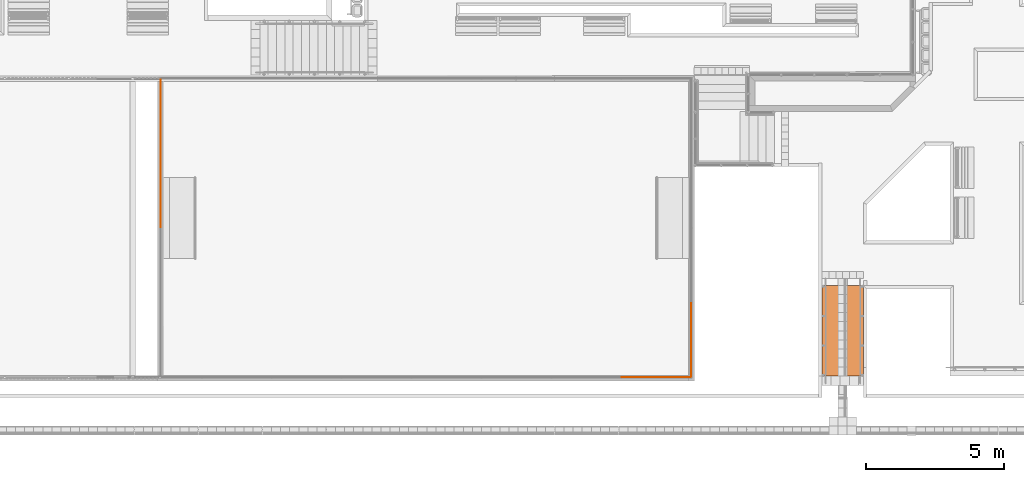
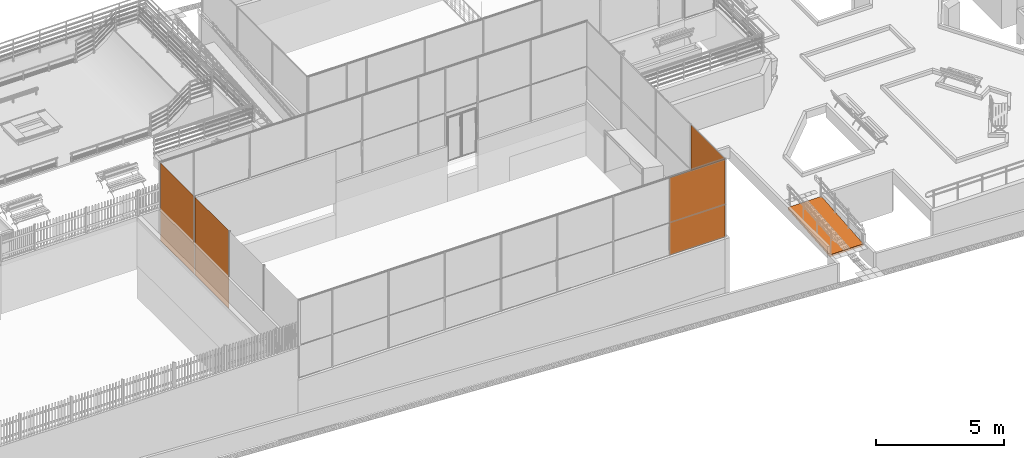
# One storey, part 211 of 237: 5 proxies.
"""IFC2X3 building model written with IfcOpenShell, lengths in millimetres."""

from ifc_helpers import new_model, entity, si_unit, converted_unit, derived_unit, money_unit, direction, frame, origin_with_axes, place, context, subcontext, project, spatial, open_shell, faceted_brep, surface_model, material, type_object, element, save


model = new_model("IFC2X3")

# Units and contexts
model_context = context("Model", 3, precision=0.01, world=origin_with_axes(), true_north=direction((0.0, 1.0)))
body_context = subcontext(model_context, "Body", "Model", "MODEL_VIEW")
ifc_project = project(units=[si_unit("LENGTHUNIT", "METRE", prefix="MILLI"), si_unit("AREAUNIT", "SQUARE_METRE"), si_unit("VOLUMEUNIT", "CUBIC_METRE"), converted_unit("PLANEANGLEUNIT", "DEGREE", entity("IfcPlaneAngleMeasure", 0.0174532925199), si_unit("PLANEANGLEUNIT", "RADIAN"), dimensions=[0, 0, 0, 0, 0, 0, 0]), money_unit("USD"), converted_unit("TIMEUNIT", "Year", entity("IfcTimeMeasure", 31556926.0), si_unit("TIMEUNIT", "SECOND"), dimensions=[0, 0, 1, 0, 0, 0, 0]), si_unit("MASSUNIT", "GRAM", prefix="KILO"), si_unit("THERMODYNAMICTEMPERATUREUNIT", "DEGREE_CELSIUS"), si_unit("LUMINOUSINTENSITYUNIT", "LUMEN"), si_unit("ENERGYUNIT", "JOULE", prefix="MEGA"), derived_unit("THERMALCONDUCTANCEUNIT", [(si_unit("POWERUNIT", "WATT"), 1), (si_unit("LENGTHUNIT", "METRE"), -1), (si_unit("THERMODYNAMICTEMPERATUREUNIT", "KELVIN"), -1)]), derived_unit("SPECIFICHEATCAPACITYUNIT", [(si_unit("ENERGYUNIT", "JOULE"), 1), (si_unit("MASSUNIT", "GRAM", prefix="KILO"), -1), (si_unit("THERMODYNAMICTEMPERATUREUNIT", "KELVIN"), -1)]), derived_unit("MASSDENSITYUNIT", [(si_unit("MASSUNIT", "GRAM", prefix="KILO"), 1), (si_unit("VOLUMEUNIT", "CUBIC_METRE"), -1)])], contexts=[model_context])

# Site, building, storey
site_placement = place(None, origin_with_axes())
site = spatial("IfcSite", under=ifc_project, at=site_placement, Name="Local", CompositionType="ELEMENT")
building_placement = place(site_placement, origin_with_axes())
building = spatial("IfcBuilding", under=site, at=building_placement, Name="Construção", CompositionType="ELEMENT")
storey_placement = place(building_placement, origin_with_axes())
storey = spatial("IfcBuildingStorey", under=building, at=storey_placement, Name="Pavimento Térreo", CompositionType="ELEMENT", Elevation=0.0)

# Proxies
building_element_proxy_type_1 = type_object("IfcBuildingElementProxyType", Name="Tela metalica1", PredefinedType="NOTDEFINED")
proxy_1_placement = place(storey_placement, frame((76272.1216043, 12206.6960524, -2726.37402835), z_axis=(0.0, 0.0, 1.0), x_axis=(0.974874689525, 0.222753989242, 0.0)))
element("IfcBuildingElementProxy", 1, at=proxy_1_placement, inside=storey, type_object=building_element_proxy_type_1, Name="Objeto-0044", context=body_context, shape_type="SurfaceModel", body=[
    surface_model("IfcShellBasedSurfaceModel", [(2420.289592, 0.0, 3702.79626524), (0.0, 555.966480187, 3702.79626524), (0.0, 555.966480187, 0.0), (2420.289592, 0.0, 0.0)], [open_shell([[[0, 1, 2, 3]]])]),
])
proxy_2_placement = place(storey_placement, frame((60049.2772981, 18305.0544461, -2721.89460916), z_axis=(0.0, 0.0, 1.0), x_axis=(-0.223510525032, 0.974701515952, 0.0)))
element("IfcBuildingElementProxy", 2, at=proxy_2_placement, inside=storey, type_object=building_element_proxy_type_1, Name="Objeto-0044", context=body_context, shape_type="SurfaceModel", body=[
    surface_model("IfcShellBasedSurfaceModel", [(2596.73432314, 0.0, 3698.31684606), (0.0, 594.295187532, 3698.31684606), (0.0, 594.295187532, 0.0), (2596.73432314, 0.0, 0.0)], [open_shell([[[0, 1, 2, 3]]])]),
])
proxy_3_placement = place(storey_placement, frame((60044.7548177, 21007.1536414, -2721.89460916), z_axis=(0.0, 0.0, 1.0), x_axis=(-0.223510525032, 0.974701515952, 0.0)))
element("IfcBuildingElementProxy", 3, at=proxy_3_placement, inside=storey, type_object=building_element_proxy_type_1, Name="Objeto-0044", context=body_context, shape_type="SurfaceModel", body=[
    surface_model("IfcShellBasedSurfaceModel", [(2576.50046435, 0.0, 3698.31684606), (0.0, 590.821869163, 3698.31684606), (0.0, 590.821869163, 0.0), (2576.50046435, 0.0, 0.0)], [open_shell([[[0, 1, 2, 3]]])]),
])
proxy_4_placement = place(storey_placement, frame((79241.7847382, 12906.1600674, -2721.89460916), z_axis=(0.0, 0.0, 1.0), x_axis=(-0.223510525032, 0.974701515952, 0.0)))
element("IfcBuildingElementProxy", 4, at=proxy_4_placement, inside=storey, type_object=building_element_proxy_type_1, Name="Objeto-0044", context=body_context, shape_type="SurfaceModel", body=[
    surface_model("IfcShellBasedSurfaceModel", [(2587.00912398, 0.0, 3698.31684606), (0.0, 600.37258562, 3698.31684606), (0.0, 600.37258562, 0.0), (2587.00912398, 0.0, 0.0)], [open_shell([[[0, 1, 2, 3]]])]),
])
ifc_material = material(Name="Concreto - Estrutural")
building_element_proxy_type_2 = type_object("IfcBuildingElementProxyType", Name="Rampa Direta 25", PredefinedType="NOTDEFINED")
proxy_5_placement = place(storey_placement, frame((84136.3506861, 12791.8113745, -5267.74663192), z_axis=(0.0, 0.0, 1.0), x_axis=(0.0, 1.0, 0.0)))
element("IfcBuildingElementProxy", 5, at=proxy_5_placement, inside=storey, type_object=building_element_proxy_type_2, material=ifc_material, Name="Objeto-0001", context=body_context, shape_type="Brep", body=[
    faceted_brep([(0.0, 750.034008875, -100.346344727), (0.0, 750.034008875, 0.0), (3280.0, 750.034008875, 273.224), (3280.0, 750.034008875, 172.877655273), (0.0, -750.034008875, -100.346344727), (0.0, -750.034008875, 0.0), (3280.0, -750.034008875, 273.224), (3280.0, -750.034008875, 172.877655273)], [[[0, 1, 2, 3]], [[0, 4, 5, 1]], [[1, 5, 6, 2]], [[3, 2, 6, 7]], [[4, 0, 3, 7]], [[5, 4, 7, 6]]]),
])

save(model, "model.ifc")
